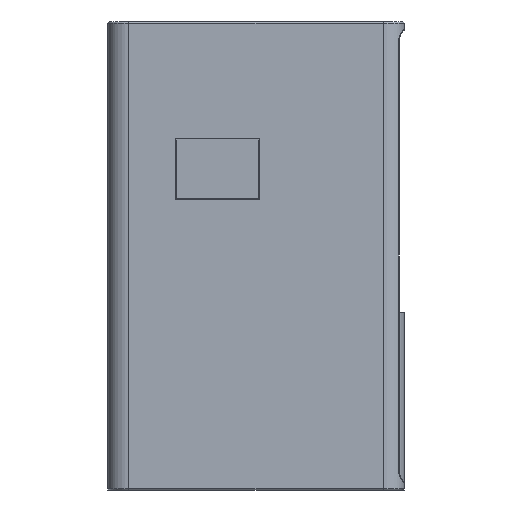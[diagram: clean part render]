
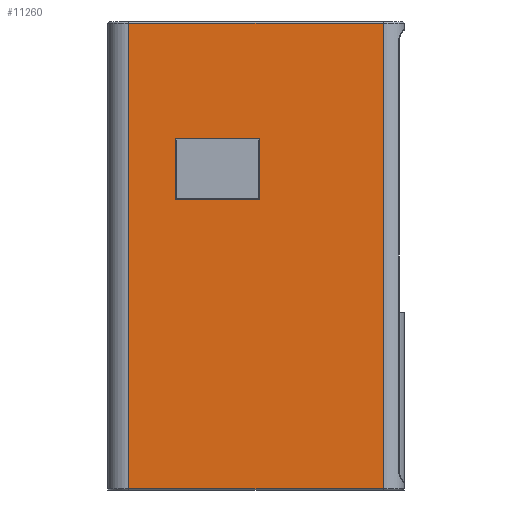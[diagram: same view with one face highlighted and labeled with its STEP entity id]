
A CAD part, left-side view. The second image highlights one B-rep face of the part: STEP entity #11260.
In plain terms, the highlighted planar face has unit normal (-1, 0, 0).
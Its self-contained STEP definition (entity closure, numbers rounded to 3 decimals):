
#6642 = CYLINDRICAL_SURFACE('',#6643,7.);
#6643 = AXIS2_PLACEMENT_3D('',#6644,#6645,#6646);
#6644 = CARTESIAN_POINT('',(7.,7.,0.));
#6645 = DIRECTION('',(0.,0.,1.));
#6646 = DIRECTION('',(-1.,-0.,0.));
#8437 = PLANE('',#8438);
#8438 = AXIS2_PLACEMENT_3D('',#8439,#8440,#8441);
#8439 = CARTESIAN_POINT('',(0.15,77.,98.35));
#8440 = DIRECTION('',(0.707,0.,-0.707
    ));
#8441 = DIRECTION('',(0.,-1.,0.));
#8491 = PLANE('',#8492);
#8492 = AXIS2_PLACEMENT_3D('',#8493,#8494,#8495);
#8493 = CARTESIAN_POINT('',(0.15,77.15,98.5));
#8494 = DIRECTION('',(-0.707,-0.707,0.
    ));
#8495 = DIRECTION('',(0.,0.,1.));
#8545 = PLANE('',#8546);
#8546 = AXIS2_PLACEMENT_3D('',#8547,#8548,#8549);
#8547 = CARTESIAN_POINT('',(0.15,48.85,98.5));
#8548 = DIRECTION('',(0.707,-0.707,0.
    ));
#8549 = DIRECTION('',(0.,0.,1.));
#8597 = PLANE('',#8598);
#8598 = AXIS2_PLACEMENT_3D('',#8599,#8600,#8601);
#8599 = CARTESIAN_POINT('',(0.15,77.,118.65));
#8600 = DIRECTION('',(-0.707,0.,-0.707
    ));
#8601 = DIRECTION('',(0.,-1.,0.));
#8787 = CYLINDRICAL_SURFACE('',#8788,0.5);
#8788 = AXIS2_PLACEMENT_3D('',#8789,#8790,#8791);
#8789 = CARTESIAN_POINT('',(0.5,7.,157.5));
#8790 = DIRECTION('',(-0.,1.,0.));
#8791 = DIRECTION('',(0.,0.,1.));
#9454 = VERTEX_POINT('',#9455);
#9455 = CARTESIAN_POINT('',(0.,7.,157.5));
#9477 = EDGE_CURVE('',#9478,#9454,#9480,.T.);
#9478 = VERTEX_POINT('',#9479);
#9479 = CARTESIAN_POINT('',(0.,7.,0.5));
#9480 = SURFACE_CURVE('',#9481,(#9485,#9492),.PCURVE_S1.);
#9481 = LINE('',#9482,#9483);
#9482 = CARTESIAN_POINT('',(0.,7.,0.));
#9483 = VECTOR('',#9484,1.);
#9484 = DIRECTION('',(0.,0.,1.));
#9485 = PCURVE('',#6642,#9486);
#9486 = DEFINITIONAL_REPRESENTATION('',(#9487),#9491);
#9487 = LINE('',#9488,#9489);
#9488 = CARTESIAN_POINT('',(0.,0.));
#9489 = VECTOR('',#9490,1.);
#9490 = DIRECTION('',(0.,1.));
#9491 = ( GEOMETRIC_REPRESENTATION_CONTEXT(2)
PARAMETRIC_REPRESENTATION_CONTEXT() REPRESENTATION_CONTEXT('2D SPACE',''
  ) );
#9492 = PCURVE('',#9493,#9498);
#9493 = PLANE('',#9494);
#9494 = AXIS2_PLACEMENT_3D('',#9495,#9496,#9497);
#9495 = CARTESIAN_POINT('',(0.,0.,0.));
#9496 = DIRECTION('',(1.,0.,-0.));
#9497 = DIRECTION('',(0.,0.,1.));
#9498 = DEFINITIONAL_REPRESENTATION('',(#9499),#9503);
#9499 = LINE('',#9500,#9501);
#9500 = CARTESIAN_POINT('',(0.,-7.));
#9501 = VECTOR('',#9502,1.);
#9502 = DIRECTION('',(1.,0.));
#9503 = ( GEOMETRIC_REPRESENTATION_CONTEXT(2)
PARAMETRIC_REPRESENTATION_CONTEXT() REPRESENTATION_CONTEXT('2D SPACE',''
  ) );
#9813 = VERTEX_POINT('',#9814);
#9814 = CARTESIAN_POINT('',(0.,77.3,98.2));
#9837 = VERTEX_POINT('',#9838);
#9838 = CARTESIAN_POINT('',(0.,48.7,98.2));
#9859 = EDGE_CURVE('',#9813,#9837,#9860,.T.);
#9860 = SURFACE_CURVE('',#9861,(#9865,#9872),.PCURVE_S1.);
#9861 = LINE('',#9862,#9863);
#9862 = CARTESIAN_POINT('',(0.,77.,98.2));
#9863 = VECTOR('',#9864,1.);
#9864 = DIRECTION('',(0.,-1.,0.));
#9865 = PCURVE('',#8437,#9866);
#9866 = DEFINITIONAL_REPRESENTATION('',(#9867),#9871);
#9867 = LINE('',#9868,#9869);
#9868 = CARTESIAN_POINT('',(0.,0.212));
#9869 = VECTOR('',#9870,1.);
#9870 = DIRECTION('',(1.,0.));
#9871 = ( GEOMETRIC_REPRESENTATION_CONTEXT(2)
PARAMETRIC_REPRESENTATION_CONTEXT() REPRESENTATION_CONTEXT('2D SPACE',''
  ) );
#9872 = PCURVE('',#9493,#9873);
#9873 = DEFINITIONAL_REPRESENTATION('',(#9874),#9878);
#9874 = LINE('',#9875,#9876);
#9875 = CARTESIAN_POINT('',(98.2,-77.));
#9876 = VECTOR('',#9877,1.);
#9877 = DIRECTION('',(0.,1.));
#9878 = ( GEOMETRIC_REPRESENTATION_CONTEXT(2)
PARAMETRIC_REPRESENTATION_CONTEXT() REPRESENTATION_CONTEXT('2D SPACE',''
  ) );
#9886 = VERTEX_POINT('',#9887);
#9887 = CARTESIAN_POINT('',(0.,77.3,118.8));
#9908 = EDGE_CURVE('',#9813,#9886,#9909,.T.);
#9909 = SURFACE_CURVE('',#9910,(#9914,#9921),.PCURVE_S1.);
#9910 = LINE('',#9911,#9912);
#9911 = CARTESIAN_POINT('',(0.,77.3,98.5));
#9912 = VECTOR('',#9913,1.);
#9913 = DIRECTION('',(0.,0.,1.));
#9914 = PCURVE('',#8491,#9915);
#9915 = DEFINITIONAL_REPRESENTATION('',(#9916),#9920);
#9916 = LINE('',#9917,#9918);
#9917 = CARTESIAN_POINT('',(0.,0.212));
#9918 = VECTOR('',#9919,1.);
#9919 = DIRECTION('',(1.,0.));
#9920 = ( GEOMETRIC_REPRESENTATION_CONTEXT(2)
PARAMETRIC_REPRESENTATION_CONTEXT() REPRESENTATION_CONTEXT('2D SPACE',''
  ) );
#9921 = PCURVE('',#9493,#9922);
#9922 = DEFINITIONAL_REPRESENTATION('',(#9923),#9927);
#9923 = LINE('',#9924,#9925);
#9924 = CARTESIAN_POINT('',(98.5,-77.3));
#9925 = VECTOR('',#9926,1.);
#9926 = DIRECTION('',(1.,0.));
#9927 = ( GEOMETRIC_REPRESENTATION_CONTEXT(2)
PARAMETRIC_REPRESENTATION_CONTEXT() REPRESENTATION_CONTEXT('2D SPACE',''
  ) );
#9935 = VERTEX_POINT('',#9936);
#9936 = CARTESIAN_POINT('',(0.,48.7,118.8));
#9957 = EDGE_CURVE('',#9837,#9935,#9958,.T.);
#9958 = SURFACE_CURVE('',#9959,(#9963,#9970),.PCURVE_S1.);
#9959 = LINE('',#9960,#9961);
#9960 = CARTESIAN_POINT('',(0.,48.7,98.5));
#9961 = VECTOR('',#9962,1.);
#9962 = DIRECTION('',(0.,0.,1.));
#9963 = PCURVE('',#8545,#9964);
#9964 = DEFINITIONAL_REPRESENTATION('',(#9965),#9969);
#9965 = LINE('',#9966,#9967);
#9966 = CARTESIAN_POINT('',(0.,0.212));
#9967 = VECTOR('',#9968,1.);
#9968 = DIRECTION('',(1.,0.));
#9969 = ( GEOMETRIC_REPRESENTATION_CONTEXT(2)
PARAMETRIC_REPRESENTATION_CONTEXT() REPRESENTATION_CONTEXT('2D SPACE',''
  ) );
#9970 = PCURVE('',#9493,#9971);
#9971 = DEFINITIONAL_REPRESENTATION('',(#9972),#9976);
#9972 = LINE('',#9973,#9974);
#9973 = CARTESIAN_POINT('',(98.5,-48.7));
#9974 = VECTOR('',#9975,1.);
#9975 = DIRECTION('',(1.,0.));
#9976 = ( GEOMETRIC_REPRESENTATION_CONTEXT(2)
PARAMETRIC_REPRESENTATION_CONTEXT() REPRESENTATION_CONTEXT('2D SPACE',''
  ) );
#9984 = EDGE_CURVE('',#9886,#9935,#9985,.T.);
#9985 = SURFACE_CURVE('',#9986,(#9990,#9997),.PCURVE_S1.);
#9986 = LINE('',#9987,#9988);
#9987 = CARTESIAN_POINT('',(0.,77.,118.8));
#9988 = VECTOR('',#9989,1.);
#9989 = DIRECTION('',(0.,-1.,0.));
#9990 = PCURVE('',#8597,#9991);
#9991 = DEFINITIONAL_REPRESENTATION('',(#9992),#9996);
#9992 = LINE('',#9993,#9994);
#9993 = CARTESIAN_POINT('',(0.,0.212));
#9994 = VECTOR('',#9995,1.);
#9995 = DIRECTION('',(1.,0.));
#9996 = ( GEOMETRIC_REPRESENTATION_CONTEXT(2)
PARAMETRIC_REPRESENTATION_CONTEXT() REPRESENTATION_CONTEXT('2D SPACE',''
  ) );
#9997 = PCURVE('',#9493,#9998);
#9998 = DEFINITIONAL_REPRESENTATION('',(#9999),#10003);
#9999 = LINE('',#10000,#10001);
#10000 = CARTESIAN_POINT('',(118.8,-77.));
#10001 = VECTOR('',#10002,1.);
#10002 = DIRECTION('',(0.,1.));
#10003 = ( GEOMETRIC_REPRESENTATION_CONTEXT(2)
PARAMETRIC_REPRESENTATION_CONTEXT() REPRESENTATION_CONTEXT('2D SPACE',''
  ) );
#10261 = EDGE_CURVE('',#9454,#10262,#10264,.T.);
#10262 = VERTEX_POINT('',#10263);
#10263 = CARTESIAN_POINT('',(0.,93.,157.5));
#10264 = SURFACE_CURVE('',#10265,(#10269,#10276),.PCURVE_S1.);
#10265 = LINE('',#10266,#10267);
#10266 = CARTESIAN_POINT('',(0.,7.,157.5));
#10267 = VECTOR('',#10268,1.);
#10268 = DIRECTION('',(-0.,1.,0.));
#10269 = PCURVE('',#8787,#10270);
#10270 = DEFINITIONAL_REPRESENTATION('',(#10271),#10275);
#10271 = LINE('',#10272,#10273);
#10272 = CARTESIAN_POINT('',(-1.571,0.));
#10273 = VECTOR('',#10274,1.);
#10274 = DIRECTION('',(-0.,1.));
#10275 = ( GEOMETRIC_REPRESENTATION_CONTEXT(2)
PARAMETRIC_REPRESENTATION_CONTEXT() REPRESENTATION_CONTEXT('2D SPACE',''
  ) );
#10276 = PCURVE('',#9493,#10277);
#10277 = DEFINITIONAL_REPRESENTATION('',(#10278),#10282);
#10278 = LINE('',#10279,#10280);
#10279 = CARTESIAN_POINT('',(157.5,-7.));
#10280 = VECTOR('',#10281,1.);
#10281 = DIRECTION('',(0.,-1.));
#10282 = ( GEOMETRIC_REPRESENTATION_CONTEXT(2)
PARAMETRIC_REPRESENTATION_CONTEXT() REPRESENTATION_CONTEXT('2D SPACE',''
  ) );
#10326 = CYLINDRICAL_SURFACE('',#10327,7.);
#10327 = AXIS2_PLACEMENT_3D('',#10328,#10329,#10330);
#10328 = CARTESIAN_POINT('',(7.,93.,0.));
#10329 = DIRECTION('',(0.,0.,1.));
#10330 = DIRECTION('',(-1.,-0.,0.));
#11249 = CYLINDRICAL_SURFACE('',#11250,0.5);
#11250 = AXIS2_PLACEMENT_3D('',#11251,#11252,#11253);
#11251 = CARTESIAN_POINT('',(0.5,7.,0.5));
#11252 = DIRECTION('',(-0.,1.,0.));
#11253 = DIRECTION('',(-0.,0.,-1.));
#11260 = ADVANCED_FACE('',(#11261,#11267),#9493,.F.);
#11261 = FACE_BOUND('',#11262,.F.);
#11262 = EDGE_LOOP('',(#11263,#11264,#11265,#11266));
#11263 = ORIENTED_EDGE('',*,*,#9859,.T.);
#11264 = ORIENTED_EDGE('',*,*,#9957,.T.);
#11265 = ORIENTED_EDGE('',*,*,#9984,.F.);
#11266 = ORIENTED_EDGE('',*,*,#9908,.F.);
#11267 = FACE_BOUND('',#11268,.F.);
#11268 = EDGE_LOOP('',(#11269,#11270,#11293,#11314));
#11269 = ORIENTED_EDGE('',*,*,#9477,.F.);
#11270 = ORIENTED_EDGE('',*,*,#11271,.T.);
#11271 = EDGE_CURVE('',#9478,#11272,#11274,.T.);
#11272 = VERTEX_POINT('',#11273);
#11273 = CARTESIAN_POINT('',(0.,93.,0.5));
#11274 = SURFACE_CURVE('',#11275,(#11279,#11286),.PCURVE_S1.);
#11275 = LINE('',#11276,#11277);
#11276 = CARTESIAN_POINT('',(0.,7.,0.5));
#11277 = VECTOR('',#11278,1.);
#11278 = DIRECTION('',(-0.,1.,0.));
#11279 = PCURVE('',#9493,#11280);
#11280 = DEFINITIONAL_REPRESENTATION('',(#11281),#11285);
#11281 = LINE('',#11282,#11283);
#11282 = CARTESIAN_POINT('',(0.5,-7.));
#11283 = VECTOR('',#11284,1.);
#11284 = DIRECTION('',(0.,-1.));
#11285 = ( GEOMETRIC_REPRESENTATION_CONTEXT(2)
PARAMETRIC_REPRESENTATION_CONTEXT() REPRESENTATION_CONTEXT('2D SPACE',''
  ) );
#11286 = PCURVE('',#11249,#11287);
#11287 = DEFINITIONAL_REPRESENTATION('',(#11288),#11292);
#11288 = LINE('',#11289,#11290);
#11289 = CARTESIAN_POINT('',(1.571,0.));
#11290 = VECTOR('',#11291,1.);
#11291 = DIRECTION('',(0.,1.));
#11292 = ( GEOMETRIC_REPRESENTATION_CONTEXT(2)
PARAMETRIC_REPRESENTATION_CONTEXT() REPRESENTATION_CONTEXT('2D SPACE',''
  ) );
#11293 = ORIENTED_EDGE('',*,*,#11294,.T.);
#11294 = EDGE_CURVE('',#11272,#10262,#11295,.T.);
#11295 = SURFACE_CURVE('',#11296,(#11300,#11307),.PCURVE_S1.);
#11296 = LINE('',#11297,#11298);
#11297 = CARTESIAN_POINT('',(0.,93.,0.));
#11298 = VECTOR('',#11299,1.);
#11299 = DIRECTION('',(0.,0.,1.));
#11300 = PCURVE('',#9493,#11301);
#11301 = DEFINITIONAL_REPRESENTATION('',(#11302),#11306);
#11302 = LINE('',#11303,#11304);
#11303 = CARTESIAN_POINT('',(0.,-93.));
#11304 = VECTOR('',#11305,1.);
#11305 = DIRECTION('',(1.,0.));
#11306 = ( GEOMETRIC_REPRESENTATION_CONTEXT(2)
PARAMETRIC_REPRESENTATION_CONTEXT() REPRESENTATION_CONTEXT('2D SPACE',''
  ) );
#11307 = PCURVE('',#10326,#11308);
#11308 = DEFINITIONAL_REPRESENTATION('',(#11309),#11313);
#11309 = LINE('',#11310,#11311);
#11310 = CARTESIAN_POINT('',(-0.,0.));
#11311 = VECTOR('',#11312,1.);
#11312 = DIRECTION('',(-0.,1.));
#11313 = ( GEOMETRIC_REPRESENTATION_CONTEXT(2)
PARAMETRIC_REPRESENTATION_CONTEXT() REPRESENTATION_CONTEXT('2D SPACE',''
  ) );
#11314 = ORIENTED_EDGE('',*,*,#10261,.F.);
